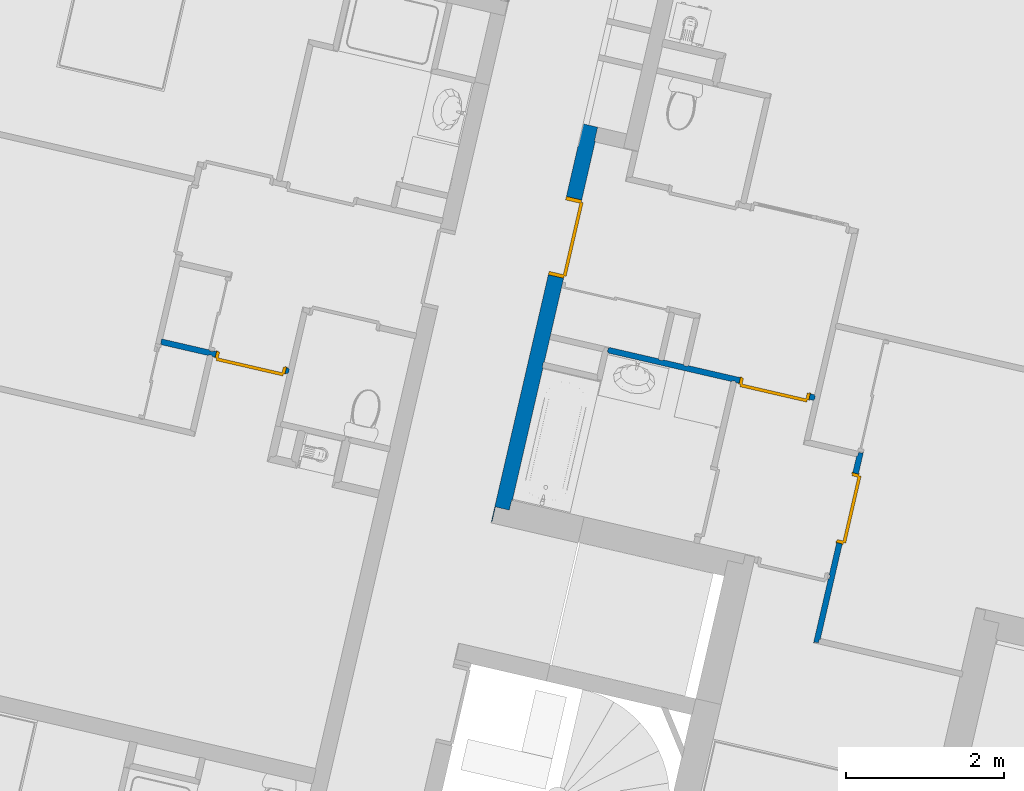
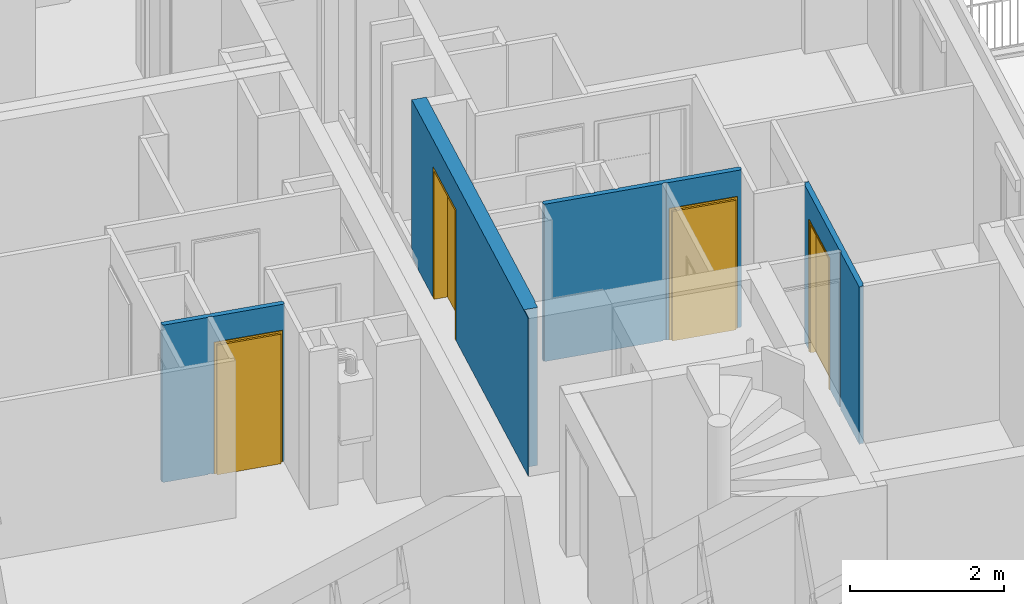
# One storey, part 26 of 90: 4 doors, 4 walls, 4 openings.
"""IFC2X3 building model written with IfcOpenShell, lengths in metres."""

from ifc_helpers import new_model, entity, si_unit, converted_unit, derived_unit, money_unit, direction, frame, origin_with_axes, place, context, subcontext, project, spatial, faceted_brep, source, transform, mapped, material, material_list, type_object, element, fill, save


model = new_model("IFC2X3")

# Units and contexts
model_context = context("Model", 3, precision=1e-05, world=origin_with_axes(), true_north=direction((0.0, 1.0)))
body_context = subcontext(model_context, "Body", "Model", "MODEL_VIEW")
ifc_project = project(units=[si_unit("LENGTHUNIT", "METRE"), si_unit("AREAUNIT", "SQUARE_METRE"), si_unit("VOLUMEUNIT", "CUBIC_METRE"), converted_unit("PLANEANGLEUNIT", "DEGREE", entity("IfcPlaneAngleMeasure", 0.0174532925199), si_unit("PLANEANGLEUNIT", "RADIAN"), dimensions=[0, 0, 0, 0, 0, 0, 0]), si_unit("SOLIDANGLEUNIT", "STERADIAN"), money_unit("EUR"), converted_unit("TIMEUNIT", "Year", entity("IfcTimeMeasure", 31556926.0), si_unit("TIMEUNIT", "SECOND"), dimensions=[0, 0, 1, 0, 0, 0, 0]), si_unit("MASSUNIT", "GRAM", prefix="KILO"), si_unit("THERMODYNAMICTEMPERATUREUNIT", "DEGREE_CELSIUS"), si_unit("LUMINOUSINTENSITYUNIT", "LUMEN"), si_unit("ENERGYUNIT", "JOULE", prefix="MEGA"), derived_unit("THERMALCONDUCTANCEUNIT", [(si_unit("POWERUNIT", "WATT"), 1), (si_unit("LENGTHUNIT", "METRE"), -1), (si_unit("THERMODYNAMICTEMPERATUREUNIT", "KELVIN"), -1)]), derived_unit("SPECIFICHEATCAPACITYUNIT", [(si_unit("ENERGYUNIT", "JOULE"), 1), (si_unit("MASSUNIT", "GRAM", prefix="KILO"), -1), (si_unit("THERMODYNAMICTEMPERATUREUNIT", "KELVIN"), -1)]), derived_unit("MASSDENSITYUNIT", [(si_unit("MASSUNIT", "GRAM", prefix="KILO"), 1), (si_unit("VOLUMEUNIT", "CUBIC_METRE"), -1)])], contexts=[model_context])

# Site, building, storey
site_placement = place(None, origin_with_axes())
site = spatial("IfcSite", under=ifc_project, at=site_placement, Name="Site", CompositionType="ELEMENT")
building_placement = place(site_placement, origin_with_axes())
building = spatial("IfcBuilding", under=site, at=building_placement, Name="Bâtiment", CompositionType="ELEMENT")
storey_placement = place(building_placement, frame((0.0, 0.0, 2.72), z_axis=(0.0, 0.0, 1.0), x_axis=(1.0, 0.0, 0.0)))
storey = spatial("IfcBuildingStorey", under=building, at=storey_placement, Name="R+1", CompositionType="ELEMENT", Elevation=2.72)

# Wall, opening, door
ifc_material_1 = material(Name="Finition int - Plaque de plâtre")
ifc_material_2 = material(Name="Isolation - Laine de roche")
ifc_material_list_1 = material_list([ifc_material_1, ifc_material_2, ifc_material_1])
wall_type_1 = type_object("IfcWallType", Name="3 - Cloison 72mm Placostil 74", PredefinedType="USERDEFINED")
wall_1_placement = place(storey_placement, frame((-6.26516283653, -2.55576610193, 0.0), z_axis=(0.0, 0.0, 1.0), x_axis=(-0.97438734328, 0.224876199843, 0.0)))
wall_1 = element("IfcWall", 1, at=wall_1_placement, inside=storey, type_object=wall_type_1, material=ifc_material_list_1, Name="Cloison Placostil 72/48", ObjectType="PARTITIONING", context=body_context, shape_type="Brep", body=[
    faceted_brep([(1.06100000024, 0.061, 0.0), (2.67383049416, 0.061, 0.0), (2.67383049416, 0.061, 2.5), (1.06100000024, 0.061, 2.5), (1.06100000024, 0.074, 0.0), (2.67383049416, 0.074, 0.0), (2.67383049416, 0.074, 2.5), (1.06100000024, 0.074, 2.5)], [[[0, 1, 2, 3]], [[4, 5, 1, 0]], [[5, 6, 2, 1]], [[3, 2, 6, 7]], [[7, 4, 0, 3]], [[7, 6, 5, 4]]]),
    faceted_brep([(0.966469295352, 0.061, 2.08), (0.966469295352, 0.061, 0.0), (1.01300000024, 0.061, 0.0), (1.01300000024, 0.061, 2.5), (0.0, 0.061, 2.5), (0.0, 0.061, 0.0), (0.0564692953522, 0.061, 0.0), (0.0564692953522, 0.061, 2.08), (0.966469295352, 0.074, 2.08), (0.966469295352, 0.074, 0.0), (1.01300000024, 0.074, 0.0), (1.01300000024, 0.074, 2.5), (0.0, 0.074, 2.5), (0.0, 0.074, 0.0), (0.0564692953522, 0.074, 0.0), (0.0564692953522, 0.074, 2.08)], [[[0, 1, 2, 3, 4, 5, 6, 7]], [[1, 0, 8, 9]], [[1, 9, 10, 2]], [[2, 10, 11, 3]], [[4, 3, 11, 12]], [[5, 4, 12, 13]], [[14, 6, 5, 13]], [[7, 6, 14, 15]], [[0, 7, 15, 8]], [[15, 14, 13, 12, 11, 10, 9, 8]]]),
    faceted_brep([(0.966469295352, 0.013, 2.08), (0.966469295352, 0.013, 0.0), (2.68683049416, 0.013, 0.0), (2.68683049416, 0.013, 2.5), (-0.0130000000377, 0.013, 2.5), (-0.0130000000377, 0.013, 0.0), (0.0564692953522, 0.013, 0.0), (0.0564692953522, 0.013, 2.08), (0.966469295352, 0.061, 2.08), (0.966469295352, 0.061, 0.0), (2.68683049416, 0.061, 0.0), (2.68683049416, 0.061, 2.5), (-0.0130000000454, 0.061, 2.5), (-0.0130000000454, 0.061, 0.0), (0.0564692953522, 0.061, 0.0), (0.0564692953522, 0.061, 2.08)], [[[0, 1, 2, 3, 4, 5, 6, 7]], [[1, 0, 8, 9]], [[1, 9, 10, 2]], [[11, 3, 2, 10]], [[3, 11, 12, 4]], [[13, 5, 4, 12]], [[14, 6, 5, 13]], [[7, 6, 14, 15]], [[0, 7, 15, 8]], [[15, 14, 13, 12, 11, 10, 9, 8]]]),
    faceted_brep([(2.02383049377, 0.0, 0.0), (2.67383049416, 0.0, 0.0), (2.67383049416, 0.0, 2.5), (2.02383049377, 0.0, 2.5), (2.02383049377, 0.013, 0.0), (2.67383049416, 0.013, 0.0), (2.67383049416, 0.013, 2.5), (2.02383049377, 0.013, 2.5)], [[[0, 1, 2, 3]], [[4, 5, 1, 0]], [[5, 6, 2, 1]], [[3, 2, 6, 7]], [[7, 4, 0, 3]], [[7, 6, 5, 4]]]),
    faceted_brep([(1.69983049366, 0.0, 0.0), (1.69983049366, 0.013, 0.0), (1.97583049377, 0.013, 0.0), (1.97583049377, 0.0, 0.0), (1.69983049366, 0.0, 2.5), (1.69983049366, 0.013, 2.5), (1.97583049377, 0.013, 2.5), (1.97583049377, 0.0, 2.5)], [[[0, 1, 2, 3]], [[1, 0, 4, 5]], [[1, 5, 6, 2]], [[7, 3, 2, 6]], [[4, 0, 3, 7]], [[5, 4, 7, 6]]]),
    faceted_brep([(0.966469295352, 0.0, 2.08), (0.966469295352, 0.0, 0.0), (1.65183049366, 0.0, 0.0), (1.65183049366, 0.0, 2.5), (0.0, 0.0, 2.5), (0.0, 0.0, 0.0), (0.0564692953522, 0.0, 0.0), (0.0564692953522, 0.0, 2.08), (0.966469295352, 0.013, 2.08), (0.966469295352, 0.013, 0.0), (1.65183049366, 0.013, 0.0), (1.65183049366, 0.013, 2.5), (0.0, 0.013, 2.5), (0.0, 0.013, 0.0), (0.0564692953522, 0.013, 0.0), (0.0564692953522, 0.013, 2.08)], [[[0, 1, 2, 3, 4, 5, 6, 7]], [[1, 0, 8, 9]], [[1, 9, 10, 2]], [[2, 10, 11, 3]], [[4, 3, 11, 12]], [[5, 4, 12, 13]], [[14, 6, 5, 13]], [[7, 6, 14, 15]], [[0, 7, 15, 8]], [[15, 14, 13, 12, 11, 10, 9, 8]]]),
])
opening_1_placement = place(wall_1_placement, frame((0.511469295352, 0.0, 0.0), z_axis=(0.0, 0.0, 1.0), x_axis=(1.0, 0.0, 0.0)))
opening_1 = element("IfcOpeningElement", 2, at=opening_1_placement, cuts=wall_1, Name="Porte 83x204 bois alvéolaire", context=body_context, shape_type="Brep", body=[
    faceted_brep([(0.455, -0.074, 0.0), (-0.455, -0.074, 0.0), (-0.455, 0.074, 0.0), (0.455, 0.074, 0.0), (0.455, -0.074, 2.08), (-0.455, -0.074, 2.08), (-0.455, 0.074, 2.08), (0.455, 0.074, 2.08)], [[[0, 1, 2, 3]], [[0, 4, 5, 1]], [[1, 5, 6, 2]], [[3, 2, 6, 7]], [[4, 0, 3, 7]], [[5, 4, 7, 6]]]),
])
door_style_1 = type_object("IfcDoorStyle", Name="Porte int générique 2019", ConstructionType="NOTDEFINED", OperationType="SINGLE_SWING_RIGHT", ParameterTakesPrecedence=False, Sizeable=False)
shared_shape_1 = source(origin_with_axes(), body_context, "Body", "Brep", [
    faceted_brep([(0.455, -0.006, 0.0), (0.415, -0.006, 0.0), (0.415, -0.006, 2.04), (-0.415, -0.006, 2.04), (-0.415, -0.006, 0.0), (-0.455, -0.006, 0.0), (-0.455, -0.006, 2.08), (0.455, -0.006, 2.08), (0.455, -0.08, 0.0), (0.415, -0.08, 0.0), (0.415, -0.08, 2.04), (-0.415, -0.08, 2.04), (-0.415, -0.08, 0.0), (-0.455, -0.08, 0.0), (-0.455, -0.08, 2.08), (0.455, -0.08, 2.08)], [[[0, 1, 2, 3, 4, 5, 6, 7]], [[0, 8, 9, 1]], [[1, 9, 10, 2]], [[2, 10, 11, 3]], [[3, 11, 12, 4]], [[5, 4, 12, 13]], [[14, 6, 5, 13]], [[15, 7, 6, 14]], [[8, 0, 7, 15]], [[9, 8, 15, 14, 13, 12, 11, 10]]]),
    faceted_brep([(0.465, -0.006, 0.0), (0.465, 0.004, 0.0), (0.465, 0.004, 2.09), (0.465, -0.006, 2.09), (0.435, -0.006, 0.0), (0.435, 0.004, 0.0), (0.435, 0.004, 2.06), (-0.435, 0.004, 2.06), (-0.435, 0.004, 0.0), (-0.465, 0.004, 0.0), (-0.465, 0.004, 2.09), (-0.465, -0.006, 2.09), (-0.465, -0.006, 0.0), (-0.435, -0.006, 0.0), (-0.435, -0.006, 2.06), (0.435, -0.006, 2.06)], [[[0, 1, 2, 3]], [[0, 4, 5, 1]], [[1, 5, 6, 7, 8, 9, 10, 2]], [[3, 2, 10, 11]], [[4, 0, 3, 11, 12, 13, 14, 15]], [[5, 4, 15, 6]], [[6, 15, 14, 7]], [[7, 14, 13, 8]], [[12, 9, 8, 13]], [[11, 10, 9, 12]]]),
    faceted_brep([(0.465, -0.09, 0.0), (0.465, -0.08, 0.0), (0.465, -0.08, 2.09), (0.465, -0.09, 2.09), (0.435, -0.09, 0.0), (0.435, -0.08, 0.0), (0.435, -0.08, 2.06), (-0.435, -0.08, 2.06), (-0.435, -0.08, 0.0), (-0.465, -0.08, 0.0), (-0.465, -0.08, 2.09), (-0.465, -0.09, 2.09), (-0.465, -0.09, 0.0), (-0.435, -0.09, 0.0), (-0.435, -0.09, 2.06), (0.435, -0.09, 2.06)], [[[0, 1, 2, 3]], [[0, 4, 5, 1]], [[1, 5, 6, 7, 8, 9, 10, 2]], [[3, 2, 10, 11]], [[4, 0, 3, 11, 12, 13, 14, 15]], [[5, 4, 15, 6]], [[6, 15, 14, 7]], [[7, 14, 13, 8]], [[12, 9, 8, 13]], [[11, 10, 9, 12]]]),
    faceted_brep([(0.435, 0.034, 0.0), (0.435, -0.006, 0.0), (-0.435, -0.006, 0.0), (-0.435, 0.034, 0.0), (0.435, 0.034, 2.06), (0.435, -0.006, 2.06), (-0.435, -0.006, 2.06), (-0.435, 0.034, 2.06)], [[[0, 1, 2, 3]], [[4, 5, 1, 0]], [[1, 5, 6, 2]], [[3, 2, 6, 7]], [[0, 3, 7, 4]], [[7, 6, 5, 4]]]),
])
door_1_placement = place(opening_1_placement, frame((-0.415, 0.0, 0.0), z_axis=(0.0, 0.0, 1.0), x_axis=(1.0, 0.0, 0.0)))
door_1 = element("IfcDoor", 3, at=door_1_placement, inside=storey, type_object=door_style_1, Name="Porte 83x204 bois alvéolaire", ObjectType="DOOR", OverallHeight=2.04, OverallWidth=0.83, context=body_context, shape_type="MappedRepresentation", body=[
    mapped(shared_shape_1, transform((0.415, 0.08, 0.0))),
])
fill(opening_1, door_1)

wall_2_placement = place(storey_placement, frame((-12.9591073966, -2.29017041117, 0.0), z_axis=(0.0, 0.0, 1.0), x_axis=(-0.974387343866, 0.224876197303, 0.0)))
wall_2 = element("IfcWall", 4, at=wall_2_placement, inside=storey, type_object=wall_type_1, material=ifc_material_list_1, Name="Cloison Placostil 72/48", ObjectType="PARTITIONING", context=body_context, shape_type="Brep", body=[
    faceted_brep([(1.02802042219, -0.013, 2.5), (1.64102042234, -0.013, 2.5), (1.64102042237, 0.0, 2.5), (1.02802042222, 0.0, 2.5), (1.02802042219, -0.013, 0.0), (1.64102042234, -0.013, 0.0), (1.64102042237, 0.0, 0.0), (1.02802042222, 0.0, 0.0)], [[[0, 1, 2, 3]], [[4, 5, 1, 0]], [[6, 2, 1, 5]], [[3, 2, 6, 7]], [[7, 4, 0, 3]], [[7, 6, 5, 4]]]),
    faceted_brep([(0.93851021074, -0.013, 2.08), (0.93851021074, -0.013, 0.0), (0.980020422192, -0.013, 0.0), (0.980020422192, -0.013, 2.5), (4.61890081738e-10, -0.013, 2.5), (4.61890081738e-10, -0.013, 0.0), (0.02851021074, -0.013, 0.0), (0.02851021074, -0.013, 2.08), (0.93851021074, 0.0, 2.08), (0.93851021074, 0.0, 0.0), (0.980020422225, 0.0, 0.0), (0.980020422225, 0.0, 2.5), (4.95568031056e-10, 0.0, 2.5), (4.95568031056e-10, 0.0, 0.0), (0.02851021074, 0.0, 0.0), (0.02851021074, 0.0, 2.08)], [[[0, 1, 2, 3, 4, 5, 6, 7]], [[1, 0, 8, 9]], [[1, 9, 10, 2]], [[3, 2, 10, 11]], [[11, 12, 4, 3]], [[4, 12, 13, 5]], [[14, 6, 5, 13]], [[7, 6, 14, 15]], [[0, 7, 15, 8]], [[15, 14, 13, 12, 11, 10, 9, 8]]]),
    faceted_brep([(0.93851021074, -0.061, 2.08), (0.93851021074, -0.061, 0.0), (1.65402042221, -0.061, 0.0), (1.65402042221, -0.061, 2.5), (-0.0129999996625, -0.061, 2.5), (-0.0129999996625, -0.061, 0.0), (0.02851021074, -0.061, 0.0), (0.02851021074, -0.061, 2.08), (0.93851021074, -0.013, 2.08), (0.93851021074, -0.013, 0.0), (1.65402042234, -0.013, 0.0), (1.65402042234, -0.013, 2.5), (-0.0129999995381, -0.013, 2.5), (-0.0129999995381, -0.013, 0.0), (0.02851021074, -0.013, 0.0), (0.02851021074, -0.013, 2.08)], [[[0, 1, 2, 3, 4, 5, 6, 7]], [[1, 0, 8, 9]], [[1, 9, 10, 2]], [[11, 3, 2, 10]], [[3, 11, 12, 4]], [[5, 4, 12, 13]], [[14, 6, 5, 13]], [[7, 6, 14, 15]], [[0, 7, 15, 8]], [[15, 14, 13, 12, 11, 10, 9, 8]]]),
    faceted_brep([(1.02802042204, -0.074, 0.0), (1.65402042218, -0.074, 0.0), (1.65402042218, -0.074, 2.5), (1.02802042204, -0.074, 2.5), (1.02802042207, -0.061, 0.0), (1.65402042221, -0.061, 0.0), (1.65402042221, -0.061, 2.5), (1.02802042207, -0.061, 2.5)], [[[0, 1, 2, 3]], [[4, 5, 1, 0]], [[5, 6, 2, 1]], [[3, 2, 6, 7]], [[4, 0, 3, 7]], [[7, 6, 5, 4]]]),
    faceted_brep([(0.93851021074, -0.074, 2.08), (0.93851021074, -0.074, 0.0), (0.980020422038, -0.074, 0.0), (0.980020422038, -0.074, 2.5), (3.03858271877e-10, -0.074, 2.5), (3.03858271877e-10, -0.074, 0.0), (0.02851021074, -0.074, 0.0), (0.02851021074, -0.074, 2.08), (0.93851021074, -0.061, 2.08), (0.93851021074, -0.061, 0.0), (0.98002042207, -0.061, 0.0), (0.98002042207, -0.061, 2.5), (3.37536221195e-10, -0.061, 2.5), (3.37536221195e-10, -0.061, 0.0), (0.02851021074, -0.061, 0.0), (0.02851021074, -0.061, 2.08)], [[[0, 1, 2, 3, 4, 5, 6, 7]], [[1, 0, 8, 9]], [[1, 9, 10, 2]], [[3, 2, 10, 11]], [[11, 12, 4, 3]], [[4, 12, 13, 5]], [[14, 6, 5, 13]], [[7, 6, 14, 15]], [[0, 7, 15, 8]], [[15, 14, 13, 12, 11, 10, 9, 8]]]),
])
opening_2_placement = place(wall_2_placement, frame((0.48351021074, 0.0, 0.0), z_axis=(0.0, 0.0, 1.0), x_axis=(1.0, 0.0, 0.0)))
opening_2 = element("IfcOpeningElement", 5, at=opening_2_placement, cuts=wall_2, Name="Porte 83x204 bois alvéolaire", context=body_context, shape_type="Brep", body=[
    faceted_brep([(-0.455, 0.074, 0.0), (0.455, 0.074, 0.0), (0.455, -0.074, 0.0), (-0.455, -0.074, 0.0), (-0.455, 0.074, 2.08), (0.455, 0.074, 2.08), (0.455, -0.074, 2.08), (-0.455, -0.074, 2.08)], [[[0, 1, 2, 3]], [[0, 4, 5, 1]], [[1, 5, 6, 2]], [[3, 2, 6, 7]], [[4, 0, 3, 7]], [[5, 4, 7, 6]]]),
])
door_style_2 = type_object("IfcDoorStyle", Name="Porte int générique 2019", ConstructionType="NOTDEFINED", OperationType="SINGLE_SWING_LEFT", ParameterTakesPrecedence=False, Sizeable=False)
shared_shape_2 = source(origin_with_axes(), body_context, "Body", "Brep", [
    faceted_brep([(-0.455, -0.006, 0.0), (-0.455, -0.006, 2.08), (0.455, -0.006, 2.08), (0.455, -0.006, 0.0), (0.415, -0.006, 0.0), (0.415, -0.006, 2.04), (-0.415, -0.006, 2.04), (-0.415, -0.006, 0.0), (-0.455, -0.08, 0.0), (-0.455, -0.08, 2.08), (0.455, -0.08, 2.08), (0.455, -0.08, 0.0), (0.415, -0.08, 0.0), (0.415, -0.08, 2.04), (-0.415, -0.08, 2.04), (-0.415, -0.08, 0.0)], [[[0, 1, 2, 3, 4, 5, 6, 7]], [[8, 9, 1, 0]], [[9, 10, 2, 1]], [[10, 11, 3, 2]], [[3, 11, 12, 4]], [[5, 4, 12, 13]], [[6, 5, 13, 14]], [[7, 6, 14, 15]], [[0, 7, 15, 8]], [[15, 14, 13, 12, 11, 10, 9, 8]]]),
    faceted_brep([(-0.465, -0.006, 0.0), (-0.465, -0.006, 2.09), (-0.465, 0.004, 2.09), (-0.465, 0.004, 0.0), (-0.435, -0.006, 0.0), (-0.435, -0.006, 2.06), (0.435, -0.006, 2.06), (0.435, -0.006, 0.0), (0.465, -0.006, 0.0), (0.465, -0.006, 2.09), (0.465, 0.004, 2.09), (0.465, 0.004, 0.0), (0.435, 0.004, 0.0), (0.435, 0.004, 2.06), (-0.435, 0.004, 2.06), (-0.435, 0.004, 0.0)], [[[0, 1, 2, 3]], [[4, 5, 6, 7, 8, 9, 1, 0]], [[1, 9, 10, 2]], [[3, 2, 10, 11, 12, 13, 14, 15]], [[0, 3, 15, 4]], [[15, 14, 5, 4]], [[14, 13, 6, 5]], [[13, 12, 7, 6]], [[8, 7, 12, 11]], [[9, 8, 11, 10]]]),
    faceted_brep([(-0.465, -0.09, 0.0), (-0.465, -0.09, 2.09), (-0.465, -0.08, 2.09), (-0.465, -0.08, 0.0), (-0.435, -0.09, 0.0), (-0.435, -0.09, 2.06), (0.435, -0.09, 2.06), (0.435, -0.09, 0.0), (0.465, -0.09, 0.0), (0.465, -0.09, 2.09), (0.465, -0.08, 2.09), (0.465, -0.08, 0.0), (0.435, -0.08, 0.0), (0.435, -0.08, 2.06), (-0.435, -0.08, 2.06), (-0.435, -0.08, 0.0)], [[[0, 1, 2, 3]], [[4, 5, 6, 7, 8, 9, 1, 0]], [[1, 9, 10, 2]], [[3, 2, 10, 11, 12, 13, 14, 15]], [[0, 3, 15, 4]], [[15, 14, 5, 4]], [[14, 13, 6, 5]], [[13, 12, 7, 6]], [[8, 7, 12, 11]], [[9, 8, 11, 10]]]),
    faceted_brep([(-0.435, 0.034, 0.0), (0.435, 0.034, 0.0), (0.435, -0.006, 0.0), (-0.435, -0.006, 0.0), (-0.435, 0.034, 2.06), (0.435, 0.034, 2.06), (0.435, -0.006, 2.06), (-0.435, -0.006, 2.06)], [[[0, 1, 2, 3]], [[0, 4, 5, 1]], [[1, 5, 6, 2]], [[3, 2, 6, 7]], [[4, 0, 3, 7]], [[5, 4, 7, 6]]]),
])
door_2_placement = place(opening_2_placement, frame((-0.415, 0.0, 0.0), z_axis=(0.0, 0.0, 1.0), x_axis=(1.0, 0.0, 0.0)))
door_2 = element("IfcDoor", 6, at=door_2_placement, inside=storey, type_object=door_style_2, Name="Porte 83x204 bois alvéolaire", ObjectType="DOOR", OverallHeight=2.04, OverallWidth=0.83, context=body_context, shape_type="MappedRepresentation", body=[
    mapped(shared_shape_2, transform((0.415, 0.006, 0.0))),
])
fill(opening_2, door_2)

wall_3_placement = place(storey_placement, frame((-6.26296169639, -5.63237108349, 0.0), z_axis=(0.0, 0.0, 1.0), x_axis=(0.224876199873, 0.974387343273, 0.0)))
wall_3 = element("IfcWall", 7, at=wall_3_placement, inside=storey, type_object=wall_type_1, material=ifc_material_list_1, Name="Cloison Placostil 72/48", ObjectType="PARTITIONING", context=body_context, shape_type="Brep", body=[
    faceted_brep([(1.23167736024, -0.013, 0.0), (1.23167736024, -0.013, 2.08), (2.14167736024, -0.013, 2.08), (2.14167736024, -0.013, 0.0), (2.36230996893, -0.013, 0.0), (2.36230996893, -0.013, 2.5), (0.810757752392, -0.013, 2.5), (0.810757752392, -0.013, 0.0), (1.23167736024, 0.0, 0.0), (1.23167736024, 0.0, 2.08), (2.14167736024, 0.0, 2.08), (2.14167736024, 0.0, 0.0), (2.36230996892, 0.0, 0.0), (2.36230996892, 0.0, 2.5), (0.810757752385, 0.0, 2.5), (0.810757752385, 0.0, 0.0)], [[[0, 1, 2, 3, 4, 5, 6, 7]], [[1, 0, 8, 9]], [[2, 1, 9, 10]], [[3, 2, 10, 11]], [[3, 11, 12, 4]], [[5, 4, 12, 13]], [[13, 14, 6, 5]], [[6, 14, 15, 7]], [[8, 0, 7, 15]], [[9, 8, 15, 14, 13, 12, 11, 10]]]),
    faceted_brep([(0.762757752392, -0.013, 2.5), (0.762757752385, 0.0, 2.5), (-0.074, 0.0, 2.5), (-0.0740000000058, -0.013, 2.5), (0.762757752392, -0.013, 0.0), (0.762757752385, 0.0, 0.0), (-0.074, 0.0, 0.0), (-0.0740000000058, -0.013, 0.0)], [[[0, 1, 2, 3]], [[1, 0, 4, 5]], [[1, 5, 6, 2]], [[7, 3, 2, 6]], [[4, 0, 3, 7]], [[5, 4, 7, 6]]]),
    faceted_brep([(1.23167736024, -0.061, 0.0), (1.23167736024, -0.061, 2.08), (2.14167736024, -0.061, 2.08), (2.14167736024, -0.061, 0.0), (2.41030996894, -0.061, 0.0), (2.41030996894, -0.061, 2.5), (-0.061000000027, -0.061, 2.5), (-0.061000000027, -0.061, 0.0), (1.23167736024, -0.013, 0.0), (1.23167736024, -0.013, 2.08), (2.14167736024, -0.013, 2.08), (2.14167736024, -0.013, 0.0), (2.41030996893, -0.013, 0.0), (2.41030996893, -0.013, 2.5), (-0.0610000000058, -0.013, 2.5), (-0.0610000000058, -0.013, 0.0)], [[[0, 1, 2, 3, 4, 5, 6, 7]], [[1, 0, 8, 9]], [[2, 1, 9, 10]], [[3, 2, 10, 11]], [[3, 11, 12, 4]], [[5, 4, 12, 13]], [[13, 14, 6, 5]], [[6, 14, 15, 7]], [[8, 0, 7, 15]], [[9, 8, 15, 14, 13, 12, 11, 10]]]),
    faceted_brep([(1.23167736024, -0.074, 0.0), (1.23167736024, -0.074, 2.08), (2.14167736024, -0.074, 2.08), (2.14167736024, -0.074, 0.0), (2.42330996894, -0.074, 0.0), (2.42330996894, -0.074, 2.5), (-0.0130000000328, -0.074, 2.5), (-0.0130000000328, -0.074, 0.0), (1.23167736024, -0.061, 0.0), (1.23167736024, -0.061, 2.08), (2.14167736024, -0.061, 2.08), (2.14167736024, -0.061, 0.0), (2.42330996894, -0.061, 0.0), (2.42330996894, -0.061, 2.5), (-0.013000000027, -0.061, 2.5), (-0.013000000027, -0.061, 0.0)], [[[0, 1, 2, 3, 4, 5, 6, 7]], [[1, 0, 8, 9]], [[2, 1, 9, 10]], [[3, 2, 10, 11]], [[3, 11, 12, 4]], [[5, 4, 12, 13]], [[13, 14, 6, 5]], [[6, 14, 15, 7]], [[8, 0, 7, 15]], [[9, 8, 15, 14, 13, 12, 11, 10]]]),
])
opening_3_placement = place(wall_3_placement, frame((1.68667736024, 0.0, 0.0), z_axis=(0.0, 0.0, 1.0), x_axis=(1.0, 0.0, 0.0)))
opening_3 = element("IfcOpeningElement", 8, at=opening_3_placement, cuts=wall_3, Name="Porte 83x204 bois alvéolaire", context=body_context, shape_type="Brep", body=[
    faceted_brep([(-0.455, 0.074, 0.0), (0.455, 0.074, 0.0), (0.455, -0.074, 0.0), (-0.455, -0.074, 0.0), (-0.455, 0.074, 2.08), (0.455, 0.074, 2.08), (0.455, -0.074, 2.08), (-0.455, -0.074, 2.08)], [[[0, 1, 2, 3]], [[0, 4, 5, 1]], [[1, 5, 6, 2]], [[3, 2, 6, 7]], [[4, 0, 3, 7]], [[5, 4, 7, 6]]]),
])
shared_shape_3 = source(origin_with_axes(), body_context, "Body", "Brep", [
    faceted_brep([(0.455, 0.0, 0.0), (0.415, 0.0, 0.0), (0.415, 0.0, 2.04), (-0.415, 0.0, 2.04), (-0.415, 0.0, 0.0), (-0.455, 0.0, 0.0), (-0.455, 0.0, 2.08), (0.455, 0.0, 2.08), (0.455, -0.074, 0.0), (0.415, -0.074, 0.0), (0.415, -0.074, 2.04), (-0.415, -0.074, 2.04), (-0.415, -0.074, 0.0), (-0.455, -0.074, 0.0), (-0.455, -0.074, 2.08), (0.455, -0.074, 2.08)], [[[0, 1, 2, 3, 4, 5, 6, 7]], [[0, 8, 9, 1]], [[1, 9, 10, 2]], [[2, 10, 11, 3]], [[3, 11, 12, 4]], [[5, 4, 12, 13]], [[14, 6, 5, 13]], [[15, 7, 6, 14]], [[8, 0, 7, 15]], [[9, 8, 15, 14, 13, 12, 11, 10]]]),
    faceted_brep([(0.465, 0.0, 0.0), (0.465, 0.01, 0.0), (0.465, 0.01, 2.09), (0.465, 0.0, 2.09), (0.435, 0.0, 0.0), (0.435, 0.01, 0.0), (0.435, 0.01, 2.06), (-0.435, 0.01, 2.06), (-0.435, 0.01, 0.0), (-0.465, 0.01, 0.0), (-0.465, 0.01, 2.09), (-0.465, 0.0, 2.09), (-0.465, 0.0, 0.0), (-0.435, 0.0, 0.0), (-0.435, 0.0, 2.06), (0.435, 0.0, 2.06)], [[[0, 1, 2, 3]], [[0, 4, 5, 1]], [[1, 5, 6, 7, 8, 9, 10, 2]], [[3, 2, 10, 11]], [[4, 0, 3, 11, 12, 13, 14, 15]], [[5, 4, 15, 6]], [[6, 15, 14, 7]], [[7, 14, 13, 8]], [[12, 9, 8, 13]], [[11, 10, 9, 12]]]),
    faceted_brep([(0.465, -0.084, 0.0), (0.465, -0.074, 0.0), (0.465, -0.074, 2.09), (0.465, -0.084, 2.09), (0.435, -0.084, 0.0), (0.435, -0.074, 0.0), (0.435, -0.074, 2.06), (-0.435, -0.074, 2.06), (-0.435, -0.074, 0.0), (-0.465, -0.074, 0.0), (-0.465, -0.074, 2.09), (-0.465, -0.084, 2.09), (-0.465, -0.084, 0.0), (-0.435, -0.084, 0.0), (-0.435, -0.084, 2.06), (0.435, -0.084, 2.06)], [[[0, 1, 2, 3]], [[0, 4, 5, 1]], [[1, 5, 6, 7, 8, 9, 10, 2]], [[3, 2, 10, 11]], [[4, 0, 3, 11, 12, 13, 14, 15]], [[5, 4, 15, 6]], [[6, 15, 14, 7]], [[7, 14, 13, 8]], [[12, 9, 8, 13]], [[11, 10, 9, 12]]]),
    faceted_brep([(0.435, 0.04, 0.0), (0.435, 0.0, 0.0), (-0.435, 0.0, 0.0), (-0.435, 0.04, 0.0), (0.435, 0.04, 2.06), (0.435, 0.0, 2.06), (-0.435, 0.0, 2.06), (-0.435, 0.04, 2.06)], [[[0, 1, 2, 3]], [[4, 5, 1, 0]], [[1, 5, 6, 2]], [[3, 2, 6, 7]], [[0, 3, 7, 4]], [[7, 6, 5, 4]]]),
])
door_3_placement = place(opening_3_placement, frame((0.415, 0.0, 0.0), z_axis=(0.0, 0.0, 1.0), x_axis=(-1.0, 0.0, 0.0)))
door_3 = element("IfcDoor", 9, at=door_3_placement, inside=storey, type_object=door_style_1, Name="Porte 83x204 bois alvéolaire", ObjectType="DOOR", OverallHeight=2.04, OverallWidth=0.83, context=body_context, shape_type="MappedRepresentation", body=[
    mapped(shared_shape_3, transform((0.415, 0.074, 0.0))),
])
fill(opening_3, door_3)

ifc_material_3 = material(Name="Finition int - Enduit plâtre")
ifc_material_4 = material(Name="Béton")
ifc_material_list_2 = material_list([ifc_material_3, ifc_material_4, ifc_material_3])
wall_type_2 = type_object("IfcWallType", Name="2 - Murs Béton 18 + Enduit 2 Faces 200", PredefinedType="USERDEFINED")
wall_4_placement = place(storey_placement, frame((-9.20392746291, 0.883172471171, 0.0), z_axis=(0.0, 0.0, 1.0), x_axis=(-0.2248761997, -0.974387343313, 0.0)))
wall_4 = element("IfcWall", 10, at=wall_4_placement, inside=storey, type_object=wall_type_2, material=ifc_material_list_2, Name="M_Ext-008", ObjectType="SOLIDWALL", context=body_context, shape_type="Brep", body=[
    faceted_brep([(1.96600000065, 0.2, 0.0), (1.96600000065, 0.2, 2.085), (0.946000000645, 0.2, 2.085), (0.946000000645, 0.2, 0.0), (0.179999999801, 0.2, 0.0), (0.179999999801, 0.2, 2.5), (-1.98898675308e-10, 0.2, 2.5), (0.0, 0.2, 2.51), (4.8585522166, 0.2, 2.51), (4.8585522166, 0.2, 0.0), (3.13355221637, 0.2, 0.0), (3.13355221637, 0.2, 2.5), (3.05955221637, 0.2, 2.5), (3.05955221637, 0.2, 0.0), (1.96600000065, 0.19, 0.0), (1.96600000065, 0.19, 2.085), (0.946000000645, 0.19, 2.085), (0.946000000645, 0.19, 0.0), (0.179999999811, 0.19, 0.0), (0.179999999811, 0.19, 2.5), (-1.88953741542e-10, 0.19, 2.5), (0.0, 0.19, 2.51), (4.8585522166, 0.19, 2.51), (4.8585522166, 0.19, 0.0), (3.13355221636, 0.19, 0.0), (3.13355221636, 0.19, 2.5), (3.05955221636, 0.19, 2.5), (3.05955221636, 0.19, 0.0)], [[[0, 1, 2, 3, 4, 5, 6, 7, 8, 9, 10, 11, 12, 13]], [[1, 0, 14, 15]], [[2, 1, 15, 16]], [[3, 2, 16, 17]], [[3, 17, 18, 4]], [[4, 18, 19, 5]], [[20, 6, 5, 19]], [[6, 20, 21, 7]], [[8, 7, 21, 22]], [[9, 8, 22, 23]], [[24, 10, 9, 23]], [[11, 10, 24, 25]], [[12, 11, 25, 26]], [[13, 12, 26, 27]], [[14, 0, 13, 27]], [[15, 14, 27, 26, 25, 24, 23, 22, 21, 20, 19, 18, 17, 16]]]),
    faceted_brep([(1.96600000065, 0.19, 0.0), (1.96600000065, 0.19, 2.085), (0.946000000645, 0.19, 2.085), (0.946000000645, 0.19, 0.0), (-1.88954185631e-10, 0.19, 0.0), (-1.88953741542e-10, 0.19, 0.150000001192), (-1.88953741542e-10, 0.19, 2.5), (0.0, 0.19, 2.51), (4.9885522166, 0.19, 2.51), (4.9885522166, 0.19, 0.0), (1.96600000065, 0.01, 0.0), (1.96600000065, 0.01, 2.085), (0.946000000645, 0.01, 2.085), (0.946000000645, 0.01, 0.0), (0.0, 0.01, 0.0), (0.0, 0.01, 0.150000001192), (0.0, 0.01, 2.5), (0.0, 0.01, 2.51), (4.98855221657, 0.01, 2.51), (4.98855221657, 0.01, 0.0)], [[[0, 1, 2, 3, 4, 5, 6, 7, 8, 9]], [[1, 0, 10, 11]], [[2, 1, 11, 12]], [[3, 2, 12, 13]], [[3, 13, 14, 4]], [[14, 15, 5, 4]], [[6, 5, 15, 16]], [[7, 6, 16, 17]], [[8, 7, 17, 18]], [[9, 8, 18, 19]], [[10, 0, 9, 19]], [[11, 10, 19, 18, 17, 16, 15, 14, 13, 12]]]),
    faceted_brep([(1.96600000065, 0.01, 0.0), (1.96600000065, 0.01, 2.085), (0.946000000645, 0.01, 2.085), (0.946000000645, 0.01, 0.0), (0.290000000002, 0.01, 0.0), (0.290000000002, 0.01, 0.15), (0.0, 0.01, 0.15), (0.0, 0.01, 2.5), (0.0, 0.01, 2.51), (5.18855221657, 0.01, 2.51), (5.18855221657, 0.01, 0.0), (1.96600000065, 0.0, 0.0), (1.96600000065, 1.28219213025e-10, 2.085), (0.946000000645, 1.28220989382e-10, 2.085), (0.946000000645, 0.0, 0.0), (0.29, 0.0, 0.0), (0.29, 0.0, 0.15), (0.0, 1.28220989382e-10, 0.15), (0.0, 0.0, 2.5), (0.0, 0.0, 2.51), (5.18855221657, 0.0, 2.51), (5.18855221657, 0.0, 0.0)], [[[0, 1, 2, 3, 4, 5, 6, 7, 8, 9, 10]], [[1, 0, 11, 12]], [[2, 1, 12, 13]], [[3, 2, 13, 14]], [[3, 14, 15, 4]], [[5, 4, 15, 16]], [[17, 6, 5, 16]], [[6, 17, 18, 7]], [[8, 7, 18, 19]], [[9, 8, 19, 20]], [[10, 9, 20, 21]], [[11, 0, 10, 21]], [[12, 11, 21, 20, 19, 18, 17, 16, 15, 14, 13]]]),
])
opening_4_placement = place(wall_4_placement, frame((1.45600000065, 0.0, 0.0), z_axis=(0.0, 0.0, 1.0), x_axis=(1.0, 0.0, 0.0)))
opening_4 = element("IfcOpeningElement", 11, at=opening_4_placement, cuts=wall_4, Name="Porte 93x204 bois blindée", context=body_context, shape_type="Brep", body=[
    faceted_brep([(0.51, -0.2, 0.0), (-0.51, -0.2, 0.0), (-0.51, 0.2, 0.0), (0.51, 0.2, 0.0), (0.51, -0.2, 2.085), (-0.51, -0.2, 2.085), (-0.51, 0.2, 2.085), (0.51, 0.2, 2.085)], [[[0, 1, 2, 3]], [[0, 4, 5, 1]], [[1, 5, 6, 2]], [[3, 2, 6, 7]], [[4, 0, 3, 7]], [[5, 4, 7, 6]]]),
])
door_style_3 = type_object("IfcDoorStyle", Name="Porte int générique 2019", ConstructionType="NOTDEFINED", OperationType="SINGLE_SWING_RIGHT", ParameterTakesPrecedence=False, Sizeable=False)
shared_shape_4 = source(origin_with_axes(), body_context, "Body", "Brep", [
    faceted_brep([(0.51, 0.0, 0.0), (0.48, 0.0, 0.0), (0.48, 0.0, 2.055), (-0.48, 0.0, 2.055), (-0.48, 0.0, 0.0), (-0.51, 0.0, 0.0), (-0.51, 0.0, 2.085), (0.51, 0.0, 2.085), (0.51, -0.2, 0.0), (0.465, -0.2, 0.0), (0.465, -0.015, 0.0), (0.48, -0.015, 0.0), (0.48, -0.015, 2.055), (-0.48, -0.015, 2.055), (-0.48, -0.015, 0.0), (-0.465, -0.015, 0.0), (-0.465, -0.2, 0.0), (-0.51, -0.2, 0.0), (-0.51, -0.2, 2.085), (0.51, -0.2, 2.085), (-0.465, -0.2, 2.04), (0.465, -0.2, 2.04), (0.465, -0.015, 2.04), (-0.465, -0.015, 2.04)], [[[0, 1, 2, 3, 4, 5, 6, 7]], [[0, 8, 9, 10, 11, 1]], [[1, 11, 12, 2]], [[2, 12, 13, 3]], [[3, 13, 14, 4]], [[5, 4, 14, 15, 16, 17]], [[18, 6, 5, 17]], [[19, 7, 6, 18]], [[8, 0, 7, 19]], [[9, 8, 19, 18, 17, 16, 20, 21]], [[10, 9, 21, 22]], [[11, 10, 22, 23, 15, 14, 13, 12]], [[23, 20, 16, 15]], [[22, 21, 20, 23]]]),
    faceted_brep([(0.48, 0.025, 0.0), (0.48, -0.015, 0.0), (-0.48, -0.015, 0.0), (-0.48, 0.025, 0.0), (0.48, 0.025, 2.055), (0.48, -0.015, 2.055), (-0.48, -0.015, 2.055), (-0.48, 0.025, 2.055)], [[[0, 1, 2, 3]], [[4, 5, 1, 0]], [[1, 5, 6, 2]], [[3, 2, 6, 7]], [[0, 3, 7, 4]], [[7, 6, 5, 4]]]),
])
door_4_placement = place(opening_4_placement, frame((-0.465, 0.0, 0.0), z_axis=(0.0, 0.0, 1.0), x_axis=(1.0, 0.0, 0.0)))
door_4 = element("IfcDoor", 12, at=door_4_placement, inside=storey, type_object=door_style_3, Name="Porte 93x204 bois blindée", ObjectType="DOOR", OverallHeight=2.04, OverallWidth=0.93, context=body_context, shape_type="MappedRepresentation", body=[
    mapped(shared_shape_4, transform((0.465, 0.2, 0.0))),
])
fill(opening_4, door_4)

save(model, "model.ifc")
